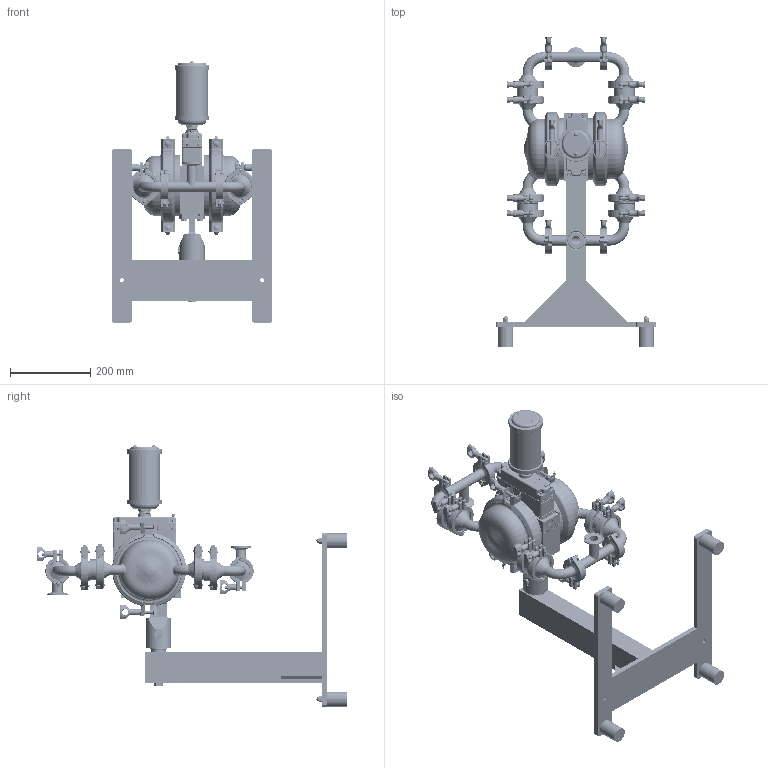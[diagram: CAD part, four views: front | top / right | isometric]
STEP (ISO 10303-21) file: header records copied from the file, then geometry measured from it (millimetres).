
FILE_DESCRIPTION((''),'2;1');
FILE_NAME('PX2_HS_PUMP_SWIVEL_SW_ASM','2009-04-21T',('Nathan'),(''),'PRO/ENGINEER BY PARAMETRIC TECHNOLOGY CORPORATION, 2008400','PRO/ENGINEER BY PARAMETRIC TECHNOLOGY CORPORATION, 2008400','');
FILE_SCHEMA(('CONFIG_CONTROL_DESIGN'));
Products named in the file (3): 02_SS_SANIFLO_HS_PUMP_SW0004; MC0366; PX2_HS_PUMP_SWIVEL_SW_ASM
Assembly tree (2 placements, depth 2):
  PX2_HS_PUMP_SWIVEL_SW_ASM
    02_SS_SANIFLO_HS_PUMP_SW0004
    MC0366
Bounding box: 400.05 x 772.81 x 650.41 mm (x, y, z)
Volume: 6528002.3 mm3; surface area: 1623842.8 mm2
Topology: 15 solids, 34 shells, 12052 faces, 30887 edges, 19150 vertices
Faces by surface type: plane 5745, cylinder 2468, torus 1511, bspline 1231, cone 687, sphere 410
Entity records: 642871 total; most frequent: CARTESIAN_POINT 357975, ORIENTED_EDGE 61482, DIRECTION 56806, EDGE_CURVE 30741, AXIS2_PLACEMENT_3D 19505, VERTEX_POINT 19150, VECTOR 17796, LINE 17796
